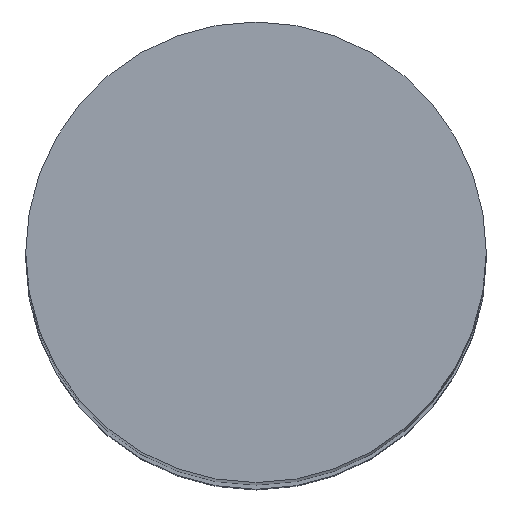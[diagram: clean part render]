
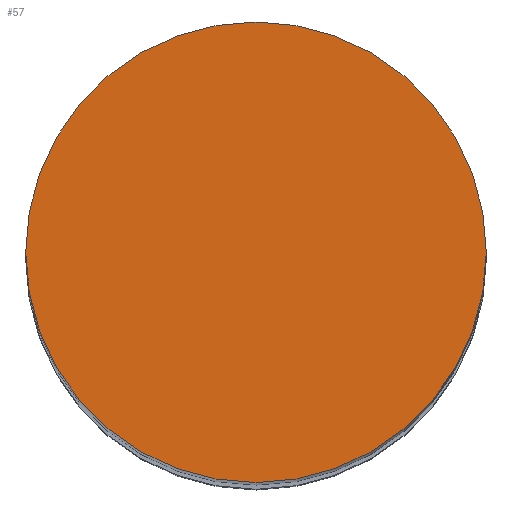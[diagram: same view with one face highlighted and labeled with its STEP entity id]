
A CAD part, top view. The second image highlights one B-rep face of the part: STEP entity #57.
In plain terms, the highlighted planar face has unit normal (0, 0, 1).
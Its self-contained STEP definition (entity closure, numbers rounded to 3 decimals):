
#57=ADVANCED_FACE('',(#110),#111,.T.);
#110=FACE_OUTER_BOUND('',#156,.T.);
#111=PLANE('',#157);
#156=EDGE_LOOP('',(#243,#244));
#157=AXIS2_PLACEMENT_3D('',#245,#246,#247);
#243=ORIENTED_EDGE('',*,*,#288,.T.);
#244=ORIENTED_EDGE('',*,*,#259,.T.);
#245=CARTESIAN_POINT('',(0.0,0.0,0.0));
#246=DIRECTION('',(0.0,0.0,1.0));
#247=DIRECTION('',(1.0,0.0,0.0));
#259=EDGE_CURVE('',#296,#293,#297,.T.);
#288=EDGE_CURVE('',#293,#296,#337,.T.);
#293=VERTEX_POINT('',#342);
#296=VERTEX_POINT('',#346);
#297=CIRCLE('',#347,8.0);
#337=CIRCLE('',#392,8.0);
#342=CARTESIAN_POINT('',(-8.0,0.0,0.0));
#346=CARTESIAN_POINT('',(8.0,0.,0.0));
#347=AXIS2_PLACEMENT_3D('',#397,#398,#399);
#392=AXIS2_PLACEMENT_3D('',#447,#448,#449);
#397=CARTESIAN_POINT('',(0.0,0.0,0.0));
#398=DIRECTION('',(0.0,0.0,1.0));
#399=DIRECTION('',(-1.0,0.0,0.0));
#447=CARTESIAN_POINT('',(0.0,0.0,0.0));
#448=DIRECTION('',(0.0,0.0,1.0));
#449=DIRECTION('',(-1.0,0.0,0.0));
